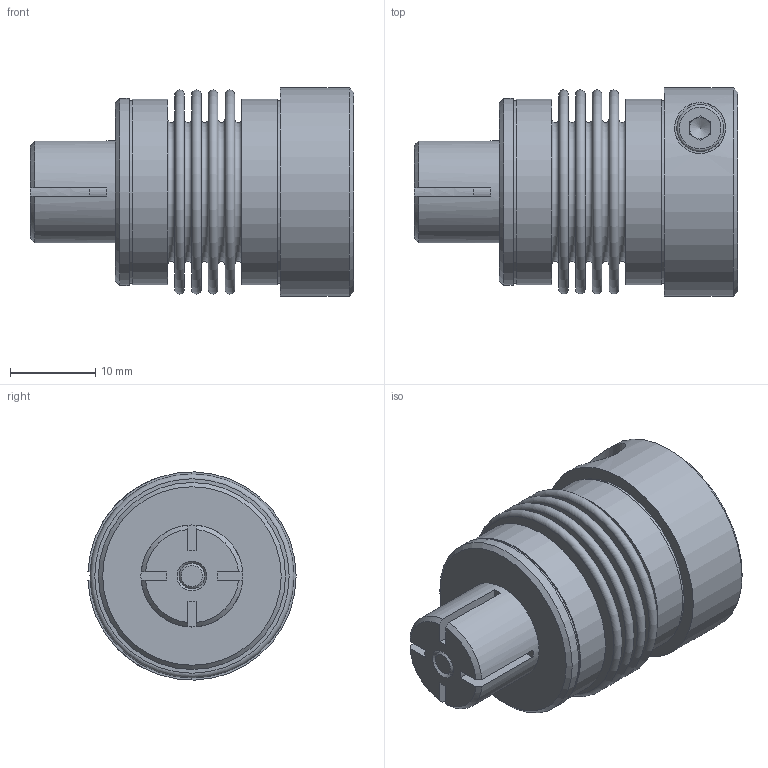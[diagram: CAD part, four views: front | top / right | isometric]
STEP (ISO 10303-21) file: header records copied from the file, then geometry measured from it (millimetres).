
FILE_DESCRIPTION(/* description */ ('Unknown'),/* implementation_level */ '2;1');
FILE_NAME(/* name */ 'KPS 2',/* time_stamp */ '2021-02-22T11:02:04+01:00',/* author */ ('Unknown'),/* organization */ ('Unknown'),/* preprocessor_version */ 'ST-DEVELOPER v16.7',/* originating_system */ 'DEX',/* authorisation */ $);
FILE_SCHEMA (('AUTOMOTIVE_DESIGN {1 0 10303 214 3 1 1}'));
Length unit declared in the file: millimetre
Products named in the file (1): KPS 2
Bounding box: 38 x 24.49 x 24.49 mm (x, y, z)
Volume: 8608 mm3; surface area: 9221.8 mm2
Topology: 1 solids, 1 shells, 131 faces, 297 edges, 191 vertices
Faces by surface type: plane 76, torus 20, cylinder 19, cone 16
Full cylindrical faces by diameter (mm): 2.5 x1, 3 x2, 3.4 x1, 3.5 x1, 5.3 x1, 5.5 x2, 6 x1, 12 x1, 21.5 x1, 21.8 x2, 22 x1
Entity records: 3454 total; most frequent: DIRECTION 642, CARTESIAN_POINT 586, ORIENTED_EDGE 484, AXIS2_PLACEMENT_3D 270, EDGE_CURVE 242, FACE_BOUND 206, EDGE_LOOP 204, VERTEX_POINT 178
